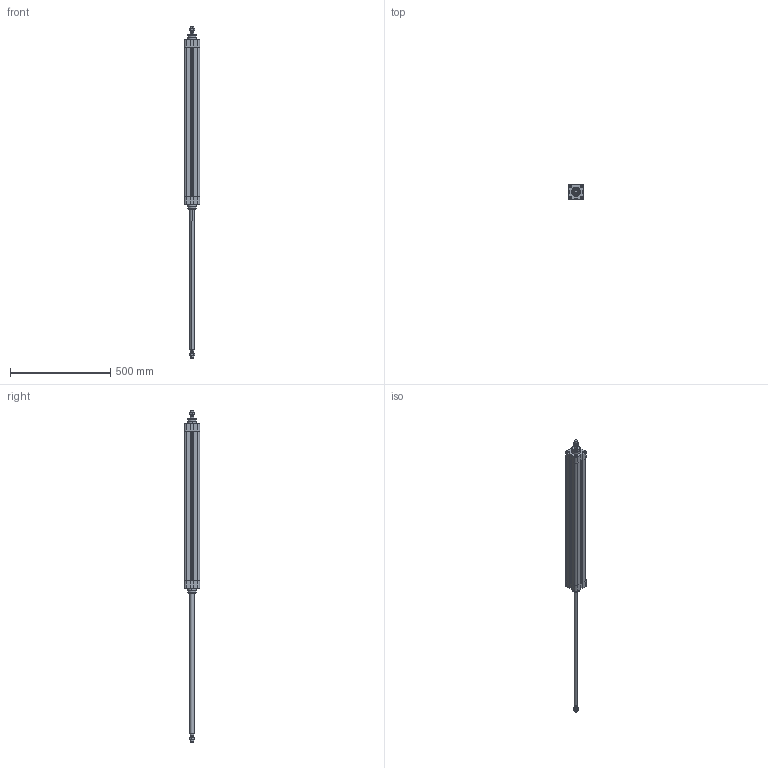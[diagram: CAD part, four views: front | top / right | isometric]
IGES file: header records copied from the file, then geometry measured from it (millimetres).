
Global section: file name: No Iges File Name specified; native system: Autodesk Inventor 2010; preprocessor: AutoDesk Inventor Iges Exporter R2010; author: rivolro1; date: 20090707.105829; units: millimetre
Bounding box: 77.5 x 77.5 x 1659 mm (x, y, z)
Volume: 3058776.4 mm3; surface area: 611843.9 mm2
Topology: 6 solids, 6 shells, 343 faces, 810 edges, 508 vertices
Faces by surface type: plane 137, bspline 86, cylinder 58, cone 38, revolution 20, torus 4
